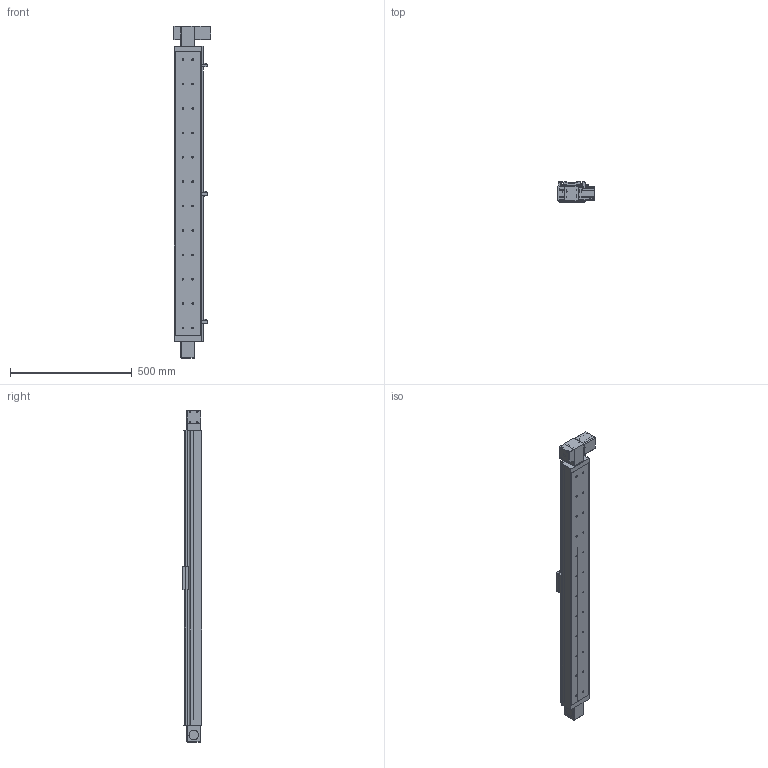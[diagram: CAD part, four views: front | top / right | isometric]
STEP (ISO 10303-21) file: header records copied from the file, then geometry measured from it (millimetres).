
FILE_DESCRIPTION((''),'2;1');
FILE_NAME('E:\uia actuator\UIA actuator 3d- 2015\Belt drive actuator\UIA110BR12(15)DC\UIA110BR12(15)DC-STEP FILE\UIA110BR12(15) stp file 13May16\UIA110BR12(15)DC-1050-M23-P13-C10-S.stp','2016-05-16T09:18:12',('h029'),(''),'Autodesk Inventor 11','Autodesk Inventor 11','');
FILE_SCHEMA(('AUTOMOTIVE_DESIGN { 1 0 10303 214 1 1 1 1 }'));
Length unit declared in the file: millimetre
Products named in the file (11): UIA110BR12(15)DC-1050; UIA110BR12(15)DC-1050-body; UIA110BR12(15)DC-1050-Sensor rail; UIA110B-Carriage; UIA110B- Sensor Flag; UIA110B-Cover; SOH-32C; SOH-32C-3; SOH-32C-1; SOH-32C-2; Motor mount
Assembly tree (10 placements, depth 3):
  UIA110BR12(15)DC-1050
    UIA110BR12(15)DC-1050-body
    UIA110BR12(15)DC-1050-Sensor rail
    UIA110B-Carriage
    UIA110B- Sensor Flag
    UIA110B-Cover
    SOH-32C
      SOH-32C-3
      SOH-32C-1
      SOH-32C-2
    Motor mount
Bounding box: 152 x 81 x 1361 mm (x, y, z)
Volume: 4077830.9 mm3; surface area: 1182617.6 mm2
Topology: 9 solids, 13 shells, 772 faces, 2170 edges, 1388 vertices
Faces by surface type: plane 479, cylinder 203, cone 42, bspline 40, sphere 8
Full cylindrical faces by diameter (mm): 2.459 x4, 3 x2, 3.242 x8, 3.5 x4, 4 x10, 4.5 x4, 4.917 x8, 5 x2, 6.35 x1, 6.5 x24, 7.5 x4, 10 x3, 11 x24, 12 x1, 20 x2, 32 x3, 37 x1, 38.1 x1, 39 x2, 43.5 x1, 46 x2
Entity records: 25978 total; most frequent: CARTESIAN_POINT 6713, DIRECTION 3939, ORIENTED_EDGE 3750, EDGE_CURVE 1875, AXIS2_PLACEMENT_3D 1360, VERTEX_POINT 1288, VECTOR 1219, LINE 1219
